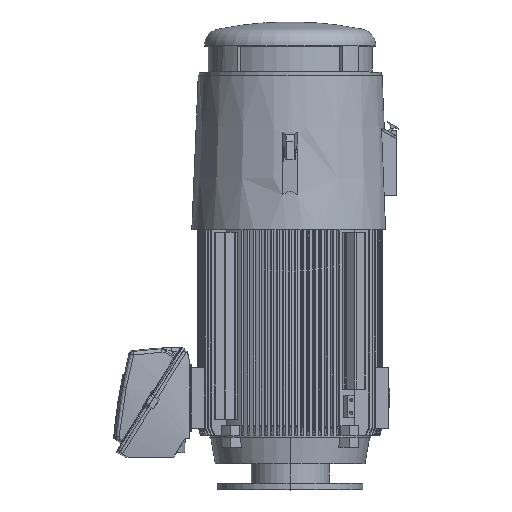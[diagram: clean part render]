
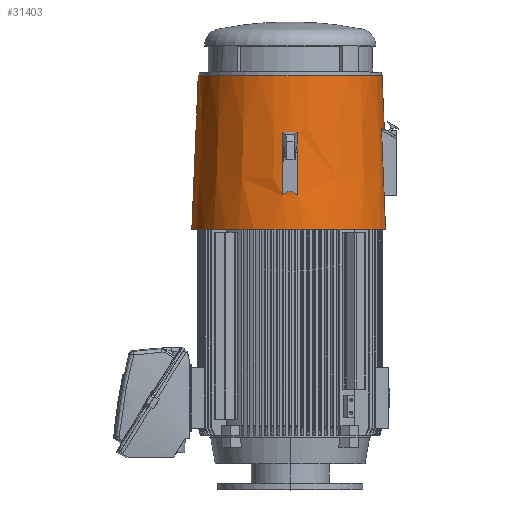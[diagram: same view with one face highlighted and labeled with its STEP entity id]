
A CAD part, top view. The second image highlights one B-rep face of the part: STEP entity #31403.
In plain terms, the highlighted conical face has half-angle 2.393 degrees and reference radius 328.613 mm.
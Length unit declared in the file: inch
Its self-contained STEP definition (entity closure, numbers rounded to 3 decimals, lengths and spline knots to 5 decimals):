
#13463=CARTESIAN_POINT('',(12.42396,3.12645,-26.38));
#13464=CARTESIAN_POINT('',(12.42265,3.12612,
-26.41253));
#13465=CARTESIAN_POINT('',(12.42315,3.11299,
-26.47772));
#13466=CARTESIAN_POINT('',(12.43319,3.05826,
-26.5612));
#13467=CARTESIAN_POINT('',(12.45066,2.97655,
-26.61703));
#13468=CARTESIAN_POINT('',(12.46512,2.91272,-26.63));
#13469=CARTESIAN_POINT('',(12.47248,2.88086,-26.63));
#13484=CARTESIAN_POINT('',(0.,0.,-26.63));
#13485=DIRECTION('',(0.,0.,-1.));
#13486=DIRECTION('',(0.974,0.225,0.));
#13487=AXIS2_PLACEMENT_3D('',#13484,#13485,#13486);
#13489=DIRECTION('',(-0.04,-0.01,-0.999));
#13490=VECTOR('',#13489,13.50177);
#13491=CARTESIAN_POINT('',(12.97062,3.26401,-12.89));
#13492=LINE('',#13491,#13490);
#13493=CARTESIAN_POINT('',(0.,0.,-12.89));
#13494=DIRECTION('',(0.,0.,1.));
#13495=DIRECTION('',(0.97,0.244,0.));
#13496=AXIS2_PLACEMENT_3D('',#13493,#13494,#13495);
#13498=DIRECTION('',(0.042,0.,-0.999));
#13499=VECTOR('',#13498,20.95827);
#13500=CARTESIAN_POINT('',(-13.375,0.,-12.89));
#13501=LINE('',#13500,#13499);
#13502=DIRECTION('',(-0.042,0.,-0.999));
#13503=VECTOR('',#13502,7.20628);
#13504=CARTESIAN_POINT('',(12.80086,0.,-26.63));
#13505=LINE('',#13504,#13503);
#13506=CARTESIAN_POINT('',(1.00645,12.78177,-26.14));
#13507=CARTESIAN_POINT('',(1.01258,12.82092,
-25.1944));
#13508=CARTESIAN_POINT('',(1.02484,12.89932,
-23.30087));
#13509=CARTESIAN_POINT('',(1.04328,13.01721,
-20.45353));
#13510=CARTESIAN_POINT('',(1.05561,13.09599,
-18.55064));
#13511=CARTESIAN_POINT('',(1.06178,13.13543,
-17.59803));
#13513=CARTESIAN_POINT('',(-1.06178,13.13543,
-17.59803));
#13514=CARTESIAN_POINT('',(-1.05561,13.09599,
-18.55062));
#13515=CARTESIAN_POINT('',(-1.04328,13.01721,
-20.45348));
#13516=CARTESIAN_POINT('',(-1.02484,12.89933,
-23.30083));
#13517=CARTESIAN_POINT('',(-1.01258,12.82092,
-25.19439));
#13518=CARTESIAN_POINT('',(-1.00645,12.78177,-26.14));
#13658=CARTESIAN_POINT('',(0.,0.,-33.83));
#13659=DIRECTION('',(0.,0.,1.));
#13660=DIRECTION('',(1.,0.,0.));
#13661=AXIS2_PLACEMENT_3D('',#13658,#13659,#13660);
#14342=CARTESIAN_POINT('',(1.06178,13.13543,
-17.59803));
#14343=CARTESIAN_POINT('',(0.35393,13.16722,
-18.2046));
#14344=CARTESIAN_POINT('',(-0.35393,13.16722,
-18.2046));
#14345=CARTESIAN_POINT('',(-1.06178,13.13543,
-17.59803));
#14391=CARTESIAN_POINT('',(0.,0.,-26.14));
#14392=DIRECTION('',(0.,0.,-1.));
#14393=DIRECTION('',(-0.078,0.997,0.));
#14394=AXIS2_PLACEMENT_3D('',#14391,#14392,#14393);
#18148=CARTESIAN_POINT('',(-1.06178,13.13543,
-17.59803));
#18149=VERTEX_POINT('',#18148);
#18150=CARTESIAN_POINT('',(-1.00645,12.78177,-26.14));
#18151=VERTEX_POINT('',#18150);
#18155=CARTESIAN_POINT('',(1.06178,13.13543,
-17.59803));
#18156=VERTEX_POINT('',#18155);
#18157=CARTESIAN_POINT('',(1.00645,12.78177,-26.14));
#18158=VERTEX_POINT('',#18157);
#18322=CARTESIAN_POINT('',(-13.375,0.,-12.89));
#18323=CARTESIAN_POINT('',(-12.5,0.,-33.83));
#18324=VERTEX_POINT('',#18322);
#18325=VERTEX_POINT('',#18323);
#18326=CARTESIAN_POINT('',(12.5,0.,-33.83));
#18327=VERTEX_POINT('',#18326);
#18339=CARTESIAN_POINT('',(12.97062,3.26401,-12.89));
#18341=VERTEX_POINT('',#18339);
#18344=CARTESIAN_POINT('',(12.80086,0.,-26.63));
#18345=VERTEX_POINT('',#18344);
#18350=CARTESIAN_POINT('',(12.42396,3.12645,-26.38));
#18351=VERTEX_POINT('',#18350);
#18352=CARTESIAN_POINT('',(12.47248,2.88086,-26.63));
#18353=VERTEX_POINT('',#18352);
#31374=CARTESIAN_POINT('',(0.,0.,-23.36));
#31375=DIRECTION('',(0.,0.,1.));
#31376=DIRECTION('',(-1.,0.,0.));
#31377=AXIS2_PLACEMENT_3D('',#31374,#31375,#31376);
#31378=CONICAL_SURFACE('',#31377,12.9375,2.393);
#31380=ORIENTED_EDGE('',*,*,#31379,.F.);
#31381=ORIENTED_EDGE('',*,*,#31365,.F.);
#31382=ORIENTED_EDGE('',*,*,#31242,.F.);
#31384=ORIENTED_EDGE('',*,*,#31383,.T.);
#31386=ORIENTED_EDGE('',*,*,#31385,.T.);
#31388=ORIENTED_EDGE('',*,*,#31387,.F.);
#31390=ORIENTED_EDGE('',*,*,#31389,.F.);
#31391=EDGE_LOOP('',(#31380,#31381,#31382,#31384,#31386,#31388,#31390));
#31392=FACE_OUTER_BOUND('',#31391,.F.);
#31394=ORIENTED_EDGE('',*,*,#31393,.F.);
#31396=ORIENTED_EDGE('',*,*,#31395,.F.);
#31398=ORIENTED_EDGE('',*,*,#31397,.F.);
#31400=ORIENTED_EDGE('',*,*,#31399,.F.);
#31401=EDGE_LOOP('',(#31394,#31396,#31398,#31400));
#31402=FACE_BOUND('',#31401,.F.);
#31403=ADVANCED_FACE('',(#31392,#31402),#31378,.T.);
#13470=B_SPLINE_CURVE_WITH_KNOTS('',3,(#13463,#13464,#13465,#13466,#13467,
#13468,#13469),.UNSPECIFIED.,.F.,.F.,(4,1,1,1,4),(0.,0.25,0.5,0.75,
1.),.UNSPECIFIED.);
#13488=CIRCLE('',#13487,12.80086);
#13497=CIRCLE('',#13496,13.375);
#13512=B_SPLINE_CURVE_WITH_KNOTS('',3,(#13506,#13507,#13508,#13509,#13510,
#13511),.UNSPECIFIED.,.F.,.F.,(4,1,1,4),(0.,0.33333,
0.66667,1.),.UNSPECIFIED.);
#13519=B_SPLINE_CURVE_WITH_KNOTS('',3,(#13513,#13514,#13515,#13516,#13517,
#13518),.UNSPECIFIED.,.F.,.F.,(4,1,1,4),(0.,0.33333,
0.66667,1.),.UNSPECIFIED.);
#13662=CIRCLE('',#13661,12.5);
#14346=B_SPLINE_CURVE_WITH_KNOTS('',3,(#14342,#14343,#14344,#14345),
.UNSPECIFIED.,.F.,.F.,(4,4),(0.,1.),.UNSPECIFIED.);
#14395=CIRCLE('',#14394,12.82133);
#31242=EDGE_CURVE('',#18341,#18351,#13492,.T.);
#31365=EDGE_CURVE('',#18351,#18353,#13470,.T.);
#31379=EDGE_CURVE('',#18353,#18345,#13488,.T.);
#31383=EDGE_CURVE('',#18341,#18324,#13497,.T.);
#31385=EDGE_CURVE('',#18324,#18325,#13501,.T.);
#31387=EDGE_CURVE('',#18327,#18325,#13662,.T.);
#31389=EDGE_CURVE('',#18345,#18327,#13505,.T.);
#31393=EDGE_CURVE('',#18158,#18156,#13512,.T.);
#31395=EDGE_CURVE('',#18151,#18158,#14395,.T.);
#31397=EDGE_CURVE('',#18149,#18151,#13519,.T.);
#31399=EDGE_CURVE('',#18156,#18149,#14346,.T.);
